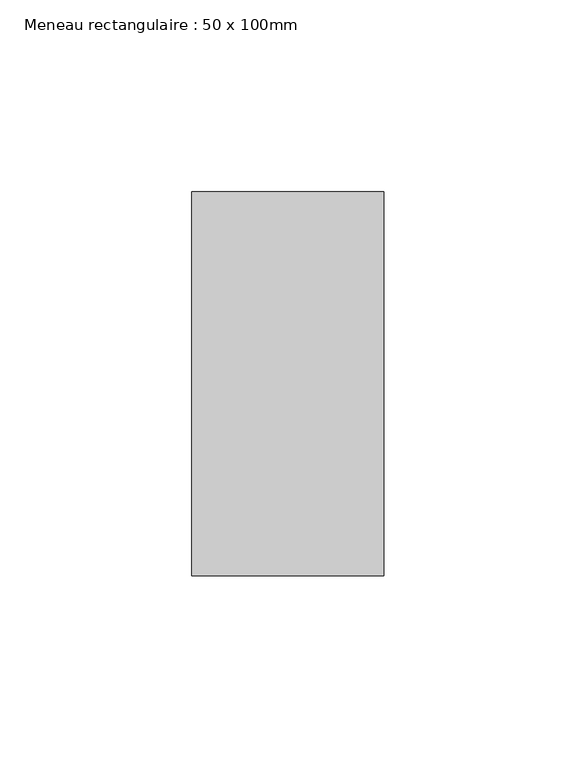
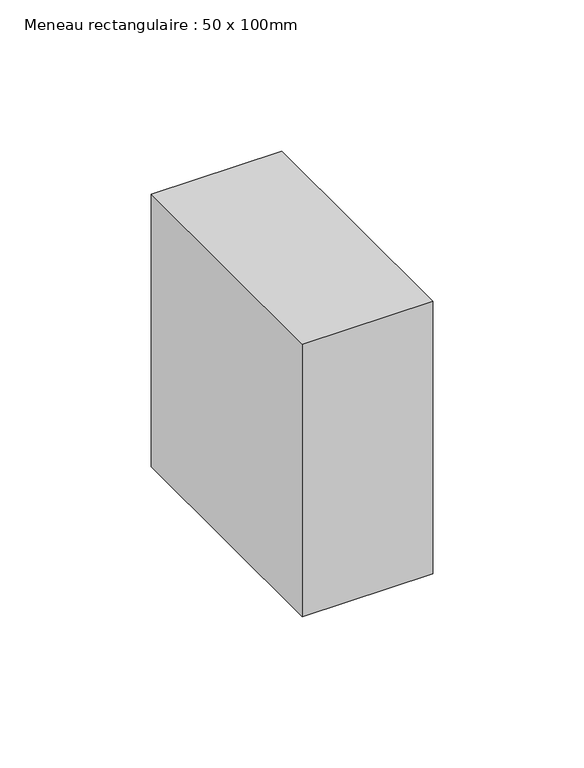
"""IFC4 building model written with IfcOpenShell, lengths in millimetres: member geometry, Meneau rectangulaire : 50 x 100mm."""

from ifc_helpers import new_model, si_unit, frame, origin, place, context, project, spatial, polyline, outline, extrude, source, transform, mapped, element, save


def meneau_rectangulaire_50_x_100mm_ec18373a(model_context):
    return source(origin(), model_context, "Body", "SweptSolid", [
        extrude(outline(polyline([(25.0, 50.0), (25.0, -50.0), (-25.0, -50.0), (-25.0, 50.0), (25.0, 50.0)])), frame((0.0, 0.0, -110.1375205), z_axis=(0.0, 0.0, 1.0), x_axis=(1.0, 0.0, 0.0)), (0.0, 0.0, 1.0), 110.1375205),
    ])


if __name__ == "__main__":
    model = new_model("IFC4")
    model_context = context("Model", 3, world=origin())
    ifc_project = project(units=[si_unit("LENGTHUNIT", "METRE", prefix="MILLI")], contexts=[model_context])
    site = spatial("IfcSite", under=ifc_project)
    building = spatial("IfcBuilding", under=site)
    placement = place(None, origin())
    meneau_rectangulaire_50_x_100mm_shape = meneau_rectangulaire_50_x_100mm_ec18373a(model_context)
    element("IfcMember", 1, ObjectType="Meneau rectangulaire : 50 x 100mm", at=placement, inside=building, context=model_context, shape_type="MappedRepresentation", body=[
        mapped(meneau_rectangulaire_50_x_100mm_shape, transform((0.0, 0.0, 0.0), x_axis=(1.0, 0.0, 0.0), y_axis=(0.0, 1.0, 0.0), z_axis=(0.0, 0.0, 1.0))),
    ])
    save(model, "model.ifc")
